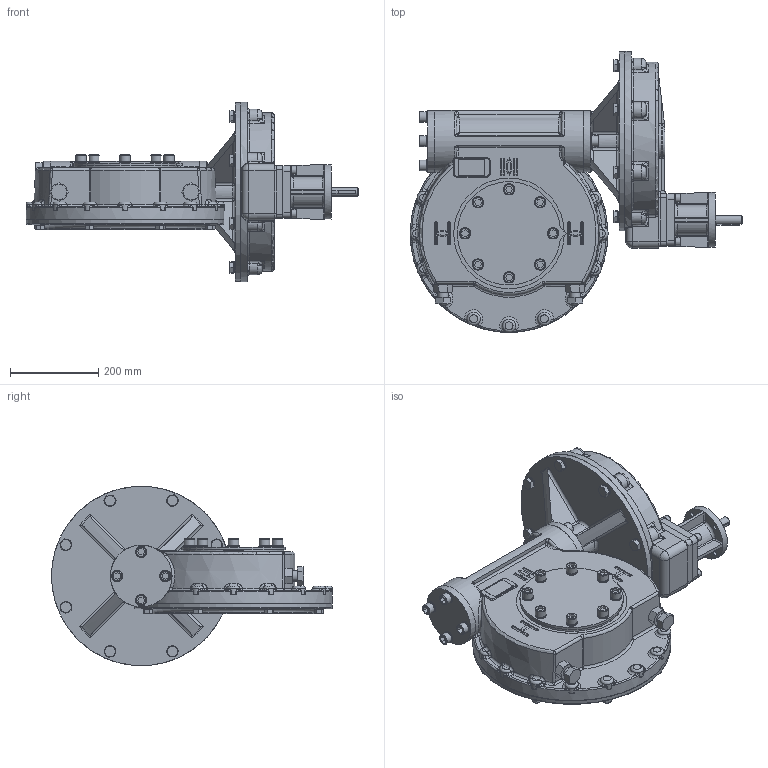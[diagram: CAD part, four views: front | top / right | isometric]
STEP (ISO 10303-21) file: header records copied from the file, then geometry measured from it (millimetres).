
FILE_DESCRIPTION(/* description */ ('Unknown'),/* implementation_level */ '2;1');
FILE_NAME(/* name */ 'PUB-IW72FBIRL-F10-F25',/* time_stamp */ '2016-07-08T15:13:07+01:00',/* author */ ('Unknown'),/* organization */ ('Unknown'),/* preprocessor_version */ 'ST-DEVELOPER v16',/* originating_system */ 'DEX',/* authorisation */ $);
FILE_SCHEMA (('AUTOMOTIVE_DESIGN {1 0 10303 214 3 1 1}'));
Products named in the file (1): PUB-IW72FBIRL-F10-F25
Bounding box: 754.52 x 638.63 x 408 mm (x, y, z)
Surface area: 1436757 mm2 (no closed solid volume)
Topology: 0 solids, 123 shells, 2077 faces, 8496 edges, 6373 vertices
Faces by surface type: plane 1095, cylinder 359, bspline 266, cone 169, torus 154, sphere 34
Full cylindrical faces by diameter (mm): 10.5 x4, 12.5 x8, 13.835 x8, 18 x4, 19 x12, 20 x1, 24 x18, 50 x1, 70.05 x1, 125 x1, 140 x3, 170 x1, 230 x1, 251.5 x1, 408 x1
Entity records: 117558 total; most frequent: CARTESIAN_POINT 54275, ORIENTED_EDGE 11903, DIRECTION 11132, EDGE_CURVE 8238, VERTEX_POINT 6327, LINE 4530, VECTOR 4530, AXIS2_PLACEMENT_3D 3301
